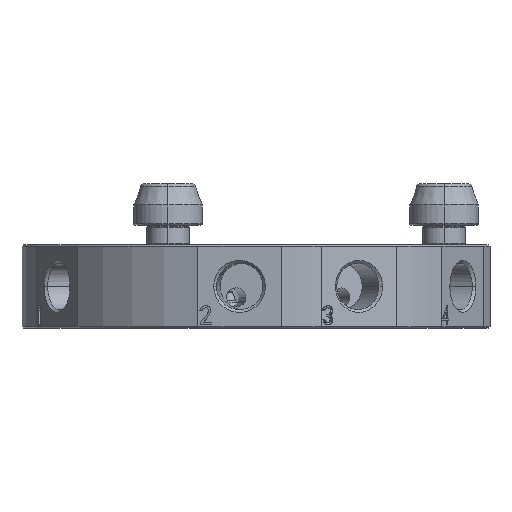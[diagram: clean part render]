
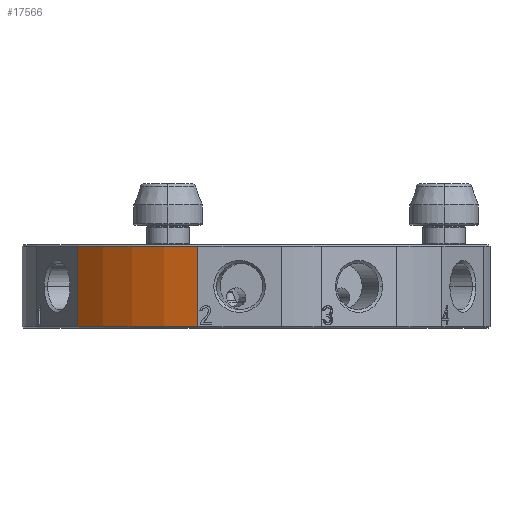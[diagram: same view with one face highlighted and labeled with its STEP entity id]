
A CAD part, left-side view. The second image highlights one B-rep face of the part: STEP entity #17566.
In plain terms, the highlighted cylindrical face has radius 45 mm (diameter 90 mm), a partial arc.
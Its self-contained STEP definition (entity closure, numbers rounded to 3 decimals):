
#429 = CARTESIAN_POINT ( 'NONE',  ( -43.444, 11.731, -19.15 ) ) ;
#543 = ORIENTED_EDGE ( 'NONE', *, *, #5490, .F. ) ;
#636 = CIRCLE ( 'NONE', #19337, 45. ) ;
#662 = CIRCLE ( 'NONE', #1000, 45. ) ;
#988 = CARTESIAN_POINT ( 'NONE',  ( -43.444, 11.731, -11.8 ) ) ;
#1000 = AXIS2_PLACEMENT_3D ( 'NONE', #3239, #5070, #6409 ) ;
#1486 = EDGE_LOOP ( 'NONE', ( #5093, #8658, #543, #13371 ) ) ;
#2512 = CARTESIAN_POINT ( 'NONE',  ( -28.997, 34.412, -27. ) ) ;
#2792 = EDGE_CURVE ( 'NONE', #5165, #13742, #662, .T. ) ;
#3239 = CARTESIAN_POINT ( 'NONE',  ( 0., 0., -27. ) ) ;
#3310 = CARTESIAN_POINT ( 'NONE',  ( -43.444, 11.731, -27. ) ) ;
#3426 = CARTESIAN_POINT ( 'NONE',  ( 0., 0., -26.4 ) ) ;
#5058 = CYLINDRICAL_SURFACE ( 'NONE', #20325, 45. ) ;
#5070 = DIRECTION ( 'NONE',  ( 0., 0., 1. ) ) ;
#5093 = ORIENTED_EDGE ( 'NONE', *, *, #11015, .F. ) ;
#5165 = VERTEX_POINT ( 'NONE', #2512 ) ;
#5490 = EDGE_CURVE ( 'NONE', #11058, #13742, #8239, .T. ) ;
#5615 = EDGE_CURVE ( 'NONE', #11058, #15459, #636, .T. ) ;
#5866 = DIRECTION ( 'NONE',  ( 1., 0., 0. ) ) ;
#6409 = DIRECTION ( 'NONE',  ( -1., 0., 0. ) ) ;
#8239 = LINE ( 'NONE', #429, #17711 ) ;
#8658 = ORIENTED_EDGE ( 'NONE', *, *, #2792, .T. ) ;
#10683 = CARTESIAN_POINT ( 'NONE',  ( -28.997, 34.412, -11.8 ) ) ;
#11015 = EDGE_CURVE ( 'NONE', #5165, #15459, #15988, .T. ) ;
#11058 = VERTEX_POINT ( 'NONE', #988 ) ;
#11603 = VECTOR ( 'NONE', #15793, 1000. ) ;
#12871 = DIRECTION ( 'NONE',  ( 0., 0., 1. ) ) ;
#12969 = DIRECTION ( 'NONE',  ( 0., 0., -1. ) ) ;
#13371 = ORIENTED_EDGE ( 'NONE', *, *, #5615, .T. ) ;
#13742 = VERTEX_POINT ( 'NONE', #3310 ) ;
#14616 = FACE_OUTER_BOUND ( 'NONE', #1486, .T. ) ;
#15459 = VERTEX_POINT ( 'NONE', #10683 ) ;
#15525 = CARTESIAN_POINT ( 'NONE',  ( 0., 0., -11.8 ) ) ;
#15793 = DIRECTION ( 'NONE',  ( 0., 0., 1. ) ) ;
#15890 = CARTESIAN_POINT ( 'NONE',  ( -28.997, 34.412, -26.4 ) ) ;
#15988 = LINE ( 'NONE', #15890, #11603 ) ;
#16150 = DIRECTION ( 'NONE',  ( 1., 0., 0. ) ) ;
#17566 = ADVANCED_FACE ( 'NONE', ( #14616 ), #5058, .T. ) ;
#17711 = VECTOR ( 'NONE', #12969, 1000. ) ;
#19337 = AXIS2_PLACEMENT_3D ( 'NONE', #15525, #19926, #5866 ) ;
#19926 = DIRECTION ( 'NONE',  ( 0., 0., -1. ) ) ;
#20325 = AXIS2_PLACEMENT_3D ( 'NONE', #3426, #12871, #16150 ) ;
